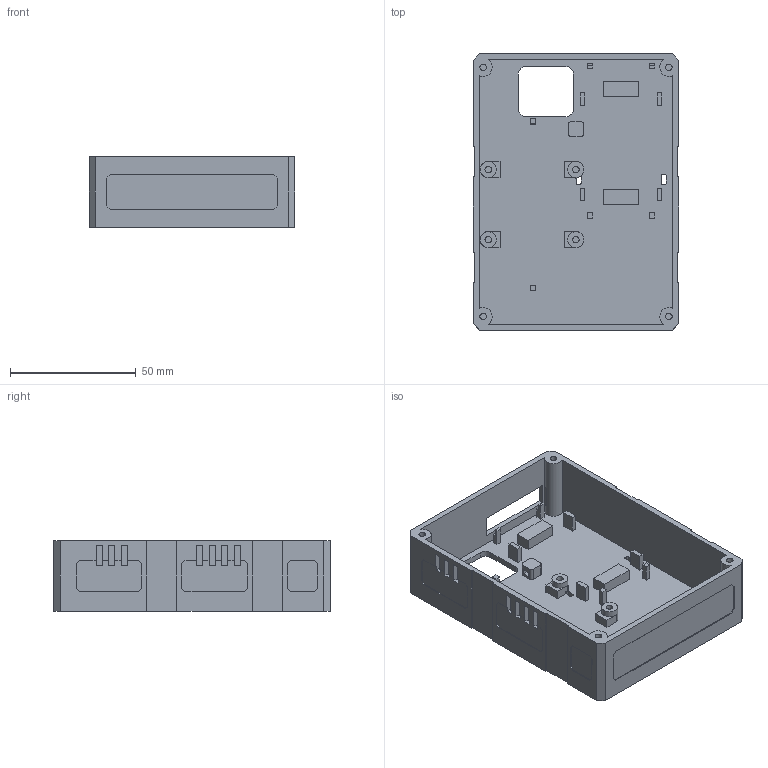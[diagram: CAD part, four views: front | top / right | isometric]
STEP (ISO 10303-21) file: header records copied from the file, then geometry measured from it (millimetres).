
FILE_DESCRIPTION(('Open CASCADE Model'),'2;1');
FILE_NAME('Open CASCADE Shape Model','2026-09-07T22:44:25',('Author'),( 'Open CASCADE'),'Open CASCADE STEP processor 7.9','build123d', 'Unknown');
FILE_SCHEMA(('AUTOMOTIVE_DESIGN { 1 0 10303 214 1 1 1 1 }'));
Length unit declared in the file: millimetre
Products named in the file (1): COMPOUND
Bounding box: 82 x 110 x 28 mm (x, y, z)
Volume: 45487.9 mm3; surface area: 39595.1 mm2
Topology: 1 solids, 1 shells, 308 faces, 829 edges, 550 vertices
Faces by surface type: plane 276, cylinder 32
Full cylindrical faces by diameter (mm): 2.6 x8, 6.4 x4
Entity records: 19929 total; most frequent: CARTESIAN_POINT 4080, DIRECTION 2630, LINE 1795, VECTOR 1795, ORIENTED_EDGE 1658, PCURVE 1658, DEFINITIONAL_REPRESENTATION 1658, EDGE_CURVE 829
